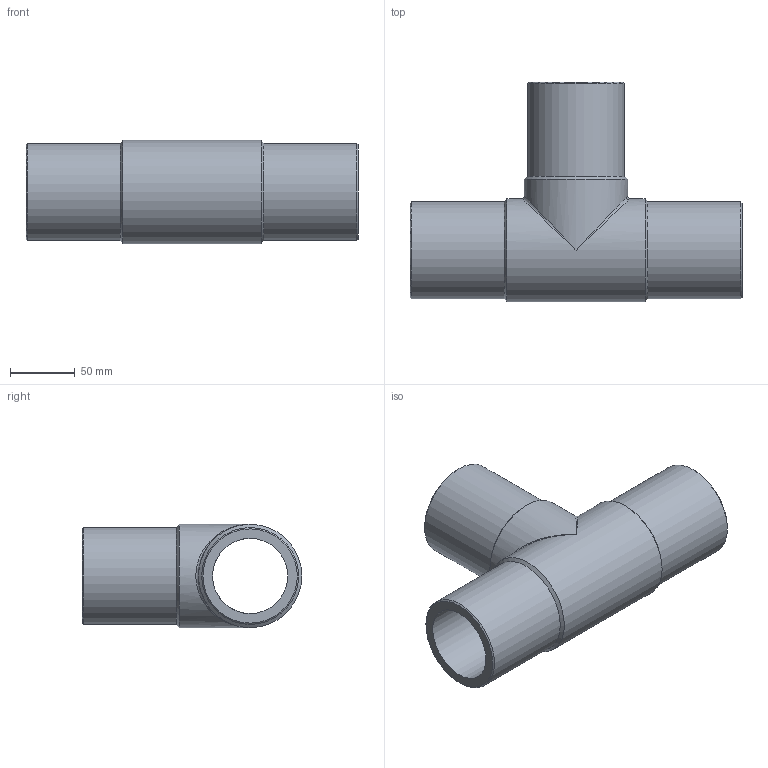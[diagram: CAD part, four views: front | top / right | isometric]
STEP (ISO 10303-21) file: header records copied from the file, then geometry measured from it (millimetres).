
FILE_DESCRIPTION(/* description */ ('Unknown'),/* implementation_level */ '2;1');
FILE_NAME(/* name */ 'TP075G',/* time_stamp */ '2021-08-12T17:46:15+02:00',/* author */ ('Unknown'),/* organization */ ('Unknown'),/* preprocessor_version */ 'ST-DEVELOPER v16.7',/* originating_system */ 'Solid Edge',/* authorisation */ 'Unknown');
FILE_SCHEMA (('AUTOMOTIVE_DESIGN {1 0 10303 214 3 1 1}'));
Length unit declared in the file: millimetre
Products named in the file (1): TP075G
Bounding box: 257 x 170 x 80 mm (x, y, z)
Volume: 675363.1 mm3; surface area: 150609.8 mm2
Topology: 1 solids, 1 shells, 18 faces, 44 edges, 23 vertices
Faces by surface type: cylinder 7, cone 6, plane 3, bspline 2
Full cylindrical faces by diameter (mm): 58.2 x2, 75 x3, 80 x2
Entity records: 504 total; most frequent: CARTESIAN_POINT 147, DIRECTION 76, ORIENTED_EDGE 42, AXIS2_PLACEMENT_3D 38, EDGE_LOOP 36, FACE_BOUND 36, EDGE_CURVE 21, VERTEX_POINT 19
